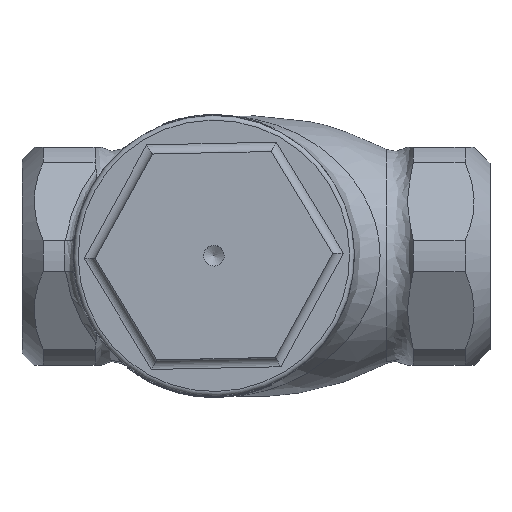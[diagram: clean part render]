
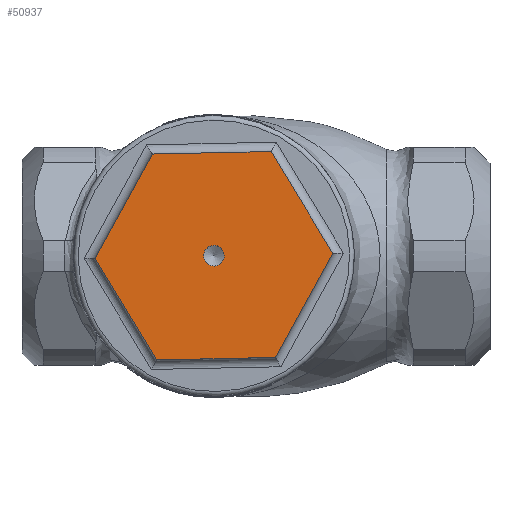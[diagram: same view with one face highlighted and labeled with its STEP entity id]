
A CAD part, top view. The second image highlights one B-rep face of the part: STEP entity #50937.
In plain terms, the highlighted planar face has unit normal (0, 0, 1).
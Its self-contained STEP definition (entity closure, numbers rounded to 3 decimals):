
#50871=CARTESIAN_POINT('',(-29.5,0.,33.3));
#50872=DIRECTION('',(0.0,0.0,1.0));
#50873=DIRECTION('',(0.876,-0.482,0.0));
#50874=AXIS2_PLACEMENT_3D('',#50871,#50872,#50873);
#50875=PLANE('',#50874);
#50876=CARTESIAN_POINT('',(-16.801,0.264,33.3));
#50877=VERTEX_POINT('',#50876);
#50878=CARTESIAN_POINT('',(-22.922,-10.866,33.3));
#50879=VERTEX_POINT('',#50878);
#50880=CARTESIAN_POINT('',(-16.801,0.264,33.3));
#50881=DIRECTION('',(-0.482,-0.876,0.0));
#50882=VECTOR('',#50881,12.702);
#50883=LINE('',#50880,#50882);
#50884=EDGE_CURVE('',#50877,#50879,#50883,.T.);
#50885=ORIENTED_EDGE('',*,*,#50884,.F.);
#50886=CARTESIAN_POINT('',(-23.379,11.129,33.3));
#50887=VERTEX_POINT('',#50886);
#50888=CARTESIAN_POINT('',(-23.379,11.129,33.3));
#50889=DIRECTION('',(0.518,-0.855,0.0));
#50890=VECTOR('',#50889,12.702);
#50891=LINE('',#50888,#50890);
#50892=EDGE_CURVE('',#50887,#50877,#50891,.T.);
#50893=ORIENTED_EDGE('',*,*,#50892,.F.);
#50894=CARTESIAN_POINT('',(-36.078,10.866,33.3));
#50895=VERTEX_POINT('',#50894);
#50896=CARTESIAN_POINT('',(-36.078,10.866,33.3));
#50897=DIRECTION('',(1.,0.021,0.0));
#50898=VECTOR('',#50897,12.702);
#50899=LINE('',#50896,#50898);
#50900=EDGE_CURVE('',#50895,#50887,#50899,.T.);
#50901=ORIENTED_EDGE('',*,*,#50900,.F.);
#50902=CARTESIAN_POINT('',(-42.199,-0.264,33.3));
#50903=VERTEX_POINT('',#50902);
#50904=CARTESIAN_POINT('',(-42.199,-0.264,33.3));
#50905=DIRECTION('',(0.482,0.876,0.0));
#50906=VECTOR('',#50905,12.702);
#50907=LINE('',#50904,#50906);
#50908=EDGE_CURVE('',#50903,#50895,#50907,.T.);
#50909=ORIENTED_EDGE('',*,*,#50908,.F.);
#50910=CARTESIAN_POINT('',(-35.621,-11.129,33.3));
#50911=VERTEX_POINT('',#50910);
#50912=CARTESIAN_POINT('',(-35.621,-11.129,33.3));
#50913=DIRECTION('',(-0.518,0.855,0.0));
#50914=VECTOR('',#50913,12.702);
#50915=LINE('',#50912,#50914);
#50916=EDGE_CURVE('',#50911,#50903,#50915,.T.);
#50917=ORIENTED_EDGE('',*,*,#50916,.F.);
#50918=CARTESIAN_POINT('',(-22.922,-10.866,33.3));
#50919=DIRECTION('',(-1.,-0.021,0.0));
#50920=VECTOR('',#50919,12.702);
#50921=LINE('',#50918,#50920);
#50922=EDGE_CURVE('',#50879,#50911,#50921,.T.);
#50923=ORIENTED_EDGE('',*,*,#50922,.F.);
#50924=EDGE_LOOP('',(#50885,#50893,#50901,#50909,#50917,#50923));
#50925=FACE_OUTER_BOUND('',#50924,.T.);
#50926=CARTESIAN_POINT('',(-28.536,-0.53,33.3));
#50927=VERTEX_POINT('',#50926);
#50928=CARTESIAN_POINT('',(-29.5,0.,33.3));
#50929=DIRECTION('',(0.0,0.0,-1.0));
#50930=DIRECTION('',(0.876,-0.482,0.0));
#50931=AXIS2_PLACEMENT_3D('',#50928,#50929,#50930);
#50932=CIRCLE('',#50931,1.1);
#50933=EDGE_CURVE('',#50927,#50927,#50932,.T.);
#50934=ORIENTED_EDGE('',*,*,#50933,.T.);
#50935=EDGE_LOOP('',(#50934));
#50936=FACE_BOUND('',#50935,.T.);
#50937=ADVANCED_FACE('',(#50925,#50936),#50875,.T.);
